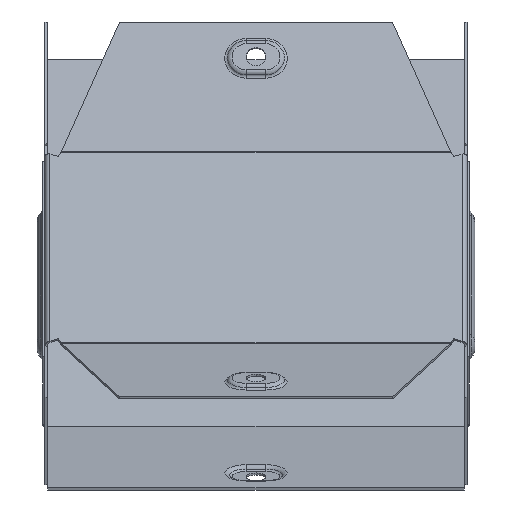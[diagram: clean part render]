
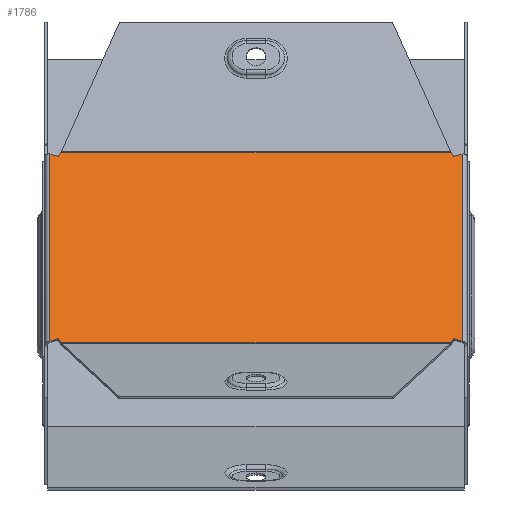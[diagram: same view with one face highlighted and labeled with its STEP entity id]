
A CAD part, front view. The second image highlights one B-rep face of the part: STEP entity #1786.
In plain terms, the highlighted planar face has unit normal (0, -0.707, 0.707).
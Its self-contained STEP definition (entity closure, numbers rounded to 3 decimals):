
#5 = LINE ( 'NONE', #7913, #6991 ) ;
#209 = LINE ( 'NONE', #3077, #4437 ) ;
#503 = LINE ( 'NONE', #7326, #2079 ) ;
#879 = PLANE ( 'NONE',  #7067 ) ;
#959 = ORIENTED_EDGE ( 'NONE', *, *, #8235, .T. ) ;
#997 = VECTOR ( 'NONE', #10580, 1000. ) ;
#1137 = ORIENTED_EDGE ( 'NONE', *, *, #9028, .F. ) ;
#1212 = CARTESIAN_POINT ( 'NONE',  ( 70.217, 3.747, -68.371 ) ) ;
#1225 = VERTEX_POINT ( 'NONE', #7500 ) ;
#1321 = CARTESIAN_POINT ( 'NONE',  ( 75.299, 69.859, -2.258 ) ) ;
#1398 = VECTOR ( 'NONE', #2698, 1000. ) ;
#1687 = CARTESIAN_POINT ( 'NONE',  ( 73.2, 70., -2.118 ) ) ;
#1778 = ORIENTED_EDGE ( 'NONE', *, *, #9554, .T. ) ;
#1786 = ADVANCED_FACE ( 'NONE', ( #4521 ), #879, .F. ) ;
#1824 = EDGE_CURVE ( 'NONE', #3350, #8443, #5, .T. ) ;
#1912 = DIRECTION ( 'NONE',  ( 0., -0.707, -0.707 ) ) ;
#1925 = ORIENTED_EDGE ( 'NONE', *, *, #5644, .T. ) ;
#2079 = VECTOR ( 'NONE', #8174, 1000. ) ;
#2101 = LINE ( 'NONE', #4589, #8204 ) ;
#2295 = EDGE_CURVE ( 'NONE', #8213, #7734, #2101, .T. ) ;
#2439 = VERTEX_POINT ( 'NONE', #7077 ) ;
#2538 = DIRECTION ( 'NONE',  ( 0.924, -0.271, -0.271 ) ) ;
#2580 = LINE ( 'NONE', #10538, #997 ) ;
#2624 = CARTESIAN_POINT ( 'NONE',  ( -70.217, 68.371, -3.747 ) ) ;
#2641 = VERTEX_POINT ( 'NONE', #4018 ) ;
#2663 = LINE ( 'NONE', #9238, #9517 ) ;
#2667 = CARTESIAN_POINT ( 'NONE',  ( -73.2, 70., -2.118 ) ) ;
#2698 = DIRECTION ( 'NONE',  ( 0., -0.707, -0.707 ) ) ;
#2868 = ORIENTED_EDGE ( 'NONE', *, *, #9233, .T. ) ;
#2880 = ORIENTED_EDGE ( 'NONE', *, *, #7521, .T. ) ;
#3077 = CARTESIAN_POINT ( 'NONE',  ( 73.2, 2.258, -69.859 ) ) ;
#3203 = ORIENTED_EDGE ( 'NONE', *, *, #4088, .T. ) ;
#3259 = VERTEX_POINT ( 'NONE', #9222 ) ;
#3271 = VECTOR ( 'NONE', #2538, 1000. ) ;
#3350 = VERTEX_POINT ( 'NONE', #7680 ) ;
#3452 = LINE ( 'NONE', #6053, #8480 ) ;
#3587 = DIRECTION ( 'NONE',  ( -0.924, 0.271, 0.271 ) ) ;
#3620 = ORIENTED_EDGE ( 'NONE', *, *, #6189, .T. ) ;
#3633 = VERTEX_POINT ( 'NONE', #7519 ) ;
#3887 = VERTEX_POINT ( 'NONE', #4792 ) ;
#4018 = CARTESIAN_POINT ( 'NONE',  ( -73.2, 2.873, -69.245 ) ) ;
#4088 = EDGE_CURVE ( 'NONE', #7986, #9700, #503, .T. ) ;
#4103 = CARTESIAN_POINT ( 'NONE',  ( -70.217, 68.371, -3.747 ) ) ;
#4195 = DIRECTION ( 'NONE',  ( 0.924, 0.271, 0.271 ) ) ;
#4341 = LINE ( 'NONE', #10934, #3271 ) ;
#4437 = VECTOR ( 'NONE', #9801, 1000. ) ;
#4521 = FACE_OUTER_BOUND ( 'NONE', #7470, .T. ) ;
#4552 = ORIENTED_EDGE ( 'NONE', *, *, #2295, .T. ) ;
#4589 = CARTESIAN_POINT ( 'NONE',  ( -75.299, 69.859, -2.258 ) ) ;
#4637 = LINE ( 'NONE', #7415, #9243 ) ;
#4792 = CARTESIAN_POINT ( 'NONE',  ( 73.2, 69.245, -2.873 ) ) ;
#5577 = ORIENTED_EDGE ( 'NONE', *, *, #8873, .T. ) ;
#5644 = EDGE_CURVE ( 'NONE', #7734, #2641, #8395, .T. ) ;
#5711 = DIRECTION ( 'NONE',  ( -0.924, -0.271, -0.271 ) ) ;
#5853 = DIRECTION ( 'NONE',  ( -0.383, -0.653, -0.653 ) ) ;
#6053 = CARTESIAN_POINT ( 'NONE',  ( 73.2, 70., -2.118 ) ) ;
#6189 = EDGE_CURVE ( 'NONE', #3633, #2439, #4637, .T. ) ;
#6991 = VECTOR ( 'NONE', #7841, 1000. ) ;
#7050 = CARTESIAN_POINT ( 'NONE',  ( -69.345, 2.258, -69.859 ) ) ;
#7067 = AXIS2_PLACEMENT_3D ( 'NONE', #1687, #9420, #10265 ) ;
#7077 = CARTESIAN_POINT ( 'NONE',  ( 69.345, 69.859, -2.258 ) ) ;
#7326 = CARTESIAN_POINT ( 'NONE',  ( -70.217, 3.747, -68.371 ) ) ;
#7415 = CARTESIAN_POINT ( 'NONE',  ( 48.5, 105.445, 33.327 ) ) ;
#7470 = EDGE_LOOP ( 'NONE', ( #8643, #959, #1137, #2868, #3620, #2880, #1778, #4552, #1925, #5577, #3203, #8911 ) ) ;
#7500 = CARTESIAN_POINT ( 'NONE',  ( -69.345, 69.859, -2.258 ) ) ;
#7519 = CARTESIAN_POINT ( 'NONE',  ( 70.217, 68.371, -3.747 ) ) ;
#7521 = EDGE_CURVE ( 'NONE', #2439, #1225, #2580, .T. ) ;
#7589 = EDGE_CURVE ( 'NONE', #3350, #9700, #209, .T. ) ;
#7680 = CARTESIAN_POINT ( 'NONE',  ( 69.345, 2.258, -69.859 ) ) ;
#7734 = VERTEX_POINT ( 'NONE', #10752 ) ;
#7841 = DIRECTION ( 'NONE',  ( 0.383, 0.653, 0.653 ) ) ;
#7913 = CARTESIAN_POINT ( 'NONE',  ( 48.5, -33.327, -105.445 ) ) ;
#7986 = VERTEX_POINT ( 'NONE', #10437 ) ;
#8174 = DIRECTION ( 'NONE',  ( 0.383, -0.653, -0.653 ) ) ;
#8204 = VECTOR ( 'NONE', #3587, 1000. ) ;
#8213 = VERTEX_POINT ( 'NONE', #4103 ) ;
#8235 = EDGE_CURVE ( 'NONE', #8443, #3259, #4341, .T. ) ;
#8395 = LINE ( 'NONE', #2667, #1398 ) ;
#8442 = VECTOR ( 'NONE', #5853, 1000. ) ;
#8443 = VERTEX_POINT ( 'NONE', #1212 ) ;
#8480 = VECTOR ( 'NONE', #1912, 1000. ) ;
#8610 = LINE ( 'NONE', #1321, #10296 ) ;
#8643 = ORIENTED_EDGE ( 'NONE', *, *, #1824, .T. ) ;
#8873 = EDGE_CURVE ( 'NONE', #2641, #7986, #2663, .T. ) ;
#8911 = ORIENTED_EDGE ( 'NONE', *, *, #7589, .F. ) ;
#9028 = EDGE_CURVE ( 'NONE', #3887, #3259, #3452, .T. ) ;
#9222 = CARTESIAN_POINT ( 'NONE',  ( 73.2, 2.873, -69.245 ) ) ;
#9228 = LINE ( 'NONE', #2624, #8442 ) ;
#9233 = EDGE_CURVE ( 'NONE', #3887, #3633, #8610, .T. ) ;
#9238 = CARTESIAN_POINT ( 'NONE',  ( -75.299, 2.258, -69.859 ) ) ;
#9243 = VECTOR ( 'NONE', #9871, 1000. ) ;
#9420 = DIRECTION ( 'NONE',  ( 0., 0.707, -0.707 ) ) ;
#9517 = VECTOR ( 'NONE', #4195, 1000. ) ;
#9554 = EDGE_CURVE ( 'NONE', #1225, #8213, #9228, .T. ) ;
#9700 = VERTEX_POINT ( 'NONE', #7050 ) ;
#9801 = DIRECTION ( 'NONE',  ( -1., 0., 0. ) ) ;
#9871 = DIRECTION ( 'NONE',  ( -0.383, 0.653, 0.653 ) ) ;
#10265 = DIRECTION ( 'NONE',  ( 0., 0.707, 0.707 ) ) ;
#10296 = VECTOR ( 'NONE', #5711, 1000. ) ;
#10437 = CARTESIAN_POINT ( 'NONE',  ( -70.217, 3.747, -68.371 ) ) ;
#10538 = CARTESIAN_POINT ( 'NONE',  ( 73.2, 69.859, -2.258 ) ) ;
#10580 = DIRECTION ( 'NONE',  ( -1., 0., 0. ) ) ;
#10752 = CARTESIAN_POINT ( 'NONE',  ( -73.2, 69.245, -2.873 ) ) ;
#10934 = CARTESIAN_POINT ( 'NONE',  ( 75.299, 2.258, -69.859 ) ) ;
